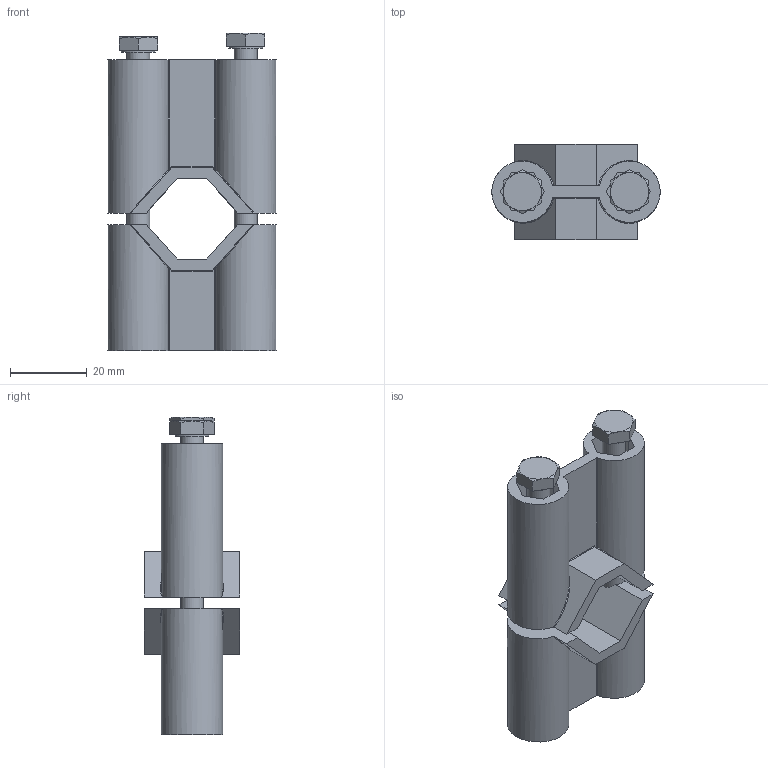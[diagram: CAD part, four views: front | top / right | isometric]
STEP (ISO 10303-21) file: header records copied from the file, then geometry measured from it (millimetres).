
FILE_DESCRIPTION((''),'2;1');
FILE_NAME('C:\Vault Klient\Projekt\Step\300-1070.stp','2009-12-07T13:16:28',('Mathias'),(''),'Autodesk Inventor 2010','Autodesk Inventor 2010','');
FILE_SCHEMA(('CONFIG_CONTROL_DESIGN'));
Length unit declared in the file: millimetre
Products named in the file (1): 300-1070
Bounding box: 44 x 25 x 83 mm (x, y, z)
Volume: 32013.8 mm3; surface area: 18707.7 mm2
Topology: 3 solids, 3 shells, 164 faces, 405 edges, 255 vertices
Faces by surface type: plane 94, cylinder 32, cone 20, bspline 18
Full cylindrical faces by diameter (mm): 6 x2, 6.5 x4, 8.88 x2
Entity records: 5424 total; most frequent: CARTESIAN_POINT 1595, ORIENTED_EDGE 752, DIRECTION 722, EDGE_CURVE 376, AXIS2_PLACEMENT_3D 255, VERTEX_POINT 244, VECTOR 212, LINE 212
